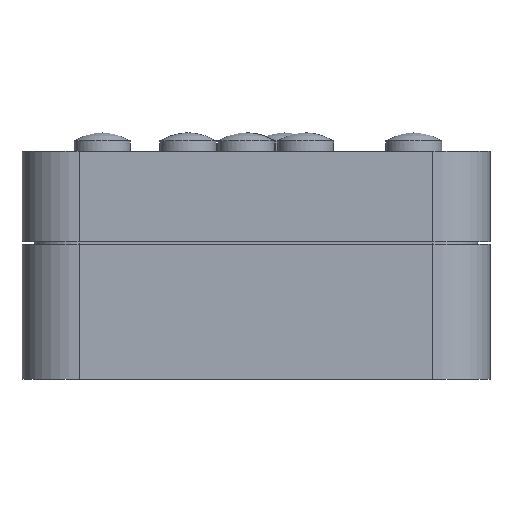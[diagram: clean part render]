
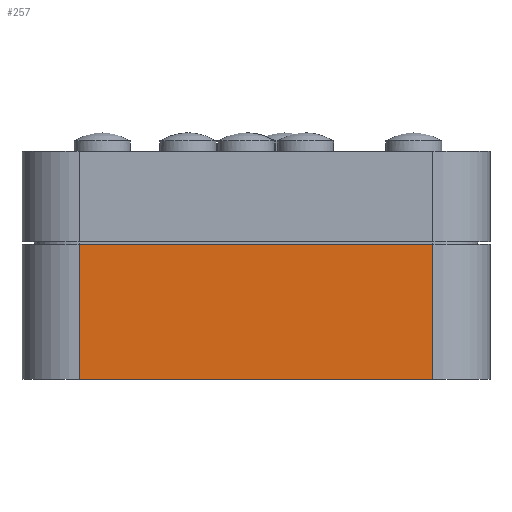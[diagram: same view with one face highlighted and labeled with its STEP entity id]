
A CAD part, left-side view. The second image highlights one B-rep face of the part: STEP entity #257.
In plain terms, the highlighted planar face has unit normal (-1, 0, 0).
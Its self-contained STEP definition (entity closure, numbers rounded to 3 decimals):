
#32 = VERTEX_POINT('',#33);
#33 = CARTESIAN_POINT('',(-42.5,-17.,0.));
#40 = EDGE_CURVE('',#32,#41,#43,.T.);
#41 = VERTEX_POINT('',#42);
#42 = CARTESIAN_POINT('',(-42.5,-17.,13.));
#43 = LINE('',#44,#45);
#44 = CARTESIAN_POINT('',(-42.5,-17.,0.));
#45 = VECTOR('',#46,1.);
#46 = DIRECTION('',(0.,0.,1.));
#123 = EDGE_CURVE('',#41,#124,#126,.T.);
#124 = VERTEX_POINT('',#125);
#125 = CARTESIAN_POINT('',(-42.5,17.,13.));
#126 = LINE('',#127,#128);
#127 = CARTESIAN_POINT('',(-42.5,-17.,13.));
#128 = VECTOR('',#129,1.);
#129 = DIRECTION('',(0.,1.,0.));
#257 = ADVANCED_FACE('',(#258),#276,.F.);
#258 = FACE_BOUND('',#259,.F.);
#259 = EDGE_LOOP('',(#260,#261,#269,#275));
#260 = ORIENTED_EDGE('',*,*,#40,.F.);
#261 = ORIENTED_EDGE('',*,*,#262,.T.);
#262 = EDGE_CURVE('',#32,#263,#265,.T.);
#263 = VERTEX_POINT('',#264);
#264 = CARTESIAN_POINT('',(-42.5,17.,0.));
#265 = LINE('',#266,#267);
#266 = CARTESIAN_POINT('',(-42.5,-17.,0.));
#267 = VECTOR('',#268,1.);
#268 = DIRECTION('',(0.,1.,0.));
#269 = ORIENTED_EDGE('',*,*,#270,.T.);
#270 = EDGE_CURVE('',#263,#124,#271,.T.);
#271 = LINE('',#272,#273);
#272 = CARTESIAN_POINT('',(-42.5,17.,0.));
#273 = VECTOR('',#274,1.);
#274 = DIRECTION('',(0.,0.,1.));
#275 = ORIENTED_EDGE('',*,*,#123,.F.);
#276 = PLANE('',#277);
#277 = AXIS2_PLACEMENT_3D('',#278,#279,#280);
#278 = CARTESIAN_POINT('',(-42.5,-17.,0.));
#279 = DIRECTION('',(1.,0.,0.));
#280 = DIRECTION('',(0.,0.,1.));
